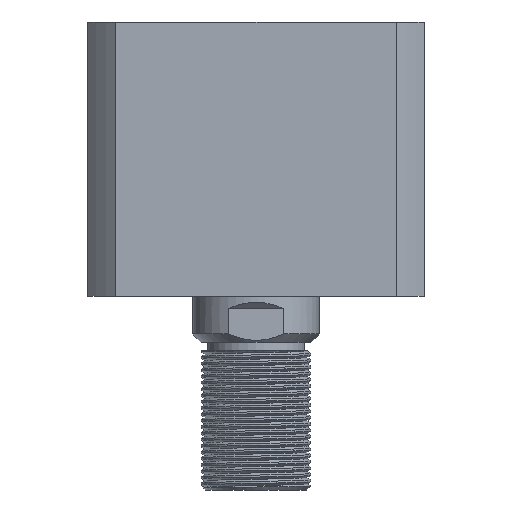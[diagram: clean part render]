
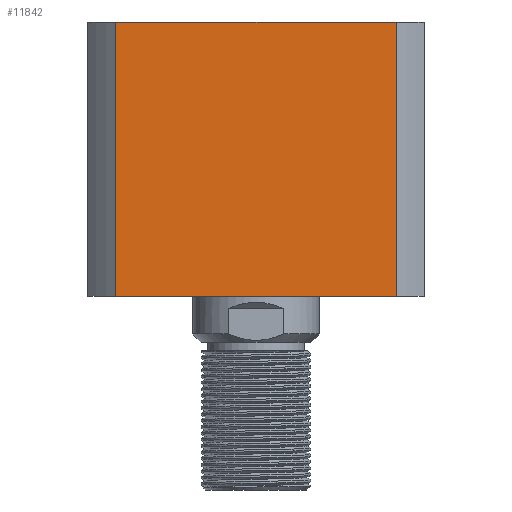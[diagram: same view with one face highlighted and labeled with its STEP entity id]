
A CAD part, left-side view. The second image highlights one B-rep face of the part: STEP entity #11842.
In plain terms, the highlighted planar face has unit normal (-1, 0, 0).
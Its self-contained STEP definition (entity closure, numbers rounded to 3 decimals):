
#645 = VECTOR ( 'NONE', #9045, 1000. ) ;
#862 = ORIENTED_EDGE ( 'NONE', *, *, #3514, .T. ) ;
#974 = CARTESIAN_POINT ( 'NONE',  ( -40., 33.226, 32.5 ) ) ;
#1391 = AXIS2_PLACEMENT_3D ( 'NONE', #974, #10622, #17326 ) ;
#1634 = CARTESIAN_POINT ( 'NONE',  ( -40., 33.226, -32.5 ) ) ;
#1740 = VECTOR ( 'NONE', #12940, 1000. ) ;
#1939 = CARTESIAN_POINT ( 'NONE',  ( -40., 33.226, 32.5 ) ) ;
#2533 = LINE ( 'NONE', #10851, #4883 ) ;
#2586 = LINE ( 'NONE', #4526, #1740 ) ;
#3111 = VERTEX_POINT ( 'NONE', #8209 ) ;
#3432 = LINE ( 'NONE', #1939, #645 ) ;
#3514 = EDGE_CURVE ( 'NONE', #13045, #12084, #3666, .T. ) ;
#3666 = LINE ( 'NONE', #3693, #6910 ) ;
#3693 = CARTESIAN_POINT ( 'NONE',  ( -40., 33.226, -32.5 ) ) ;
#3710 = EDGE_CURVE ( 'NONE', #16428, #12084, #2586, .T. ) ;
#4526 = CARTESIAN_POINT ( 'NONE',  ( -40., -33.226, 32.5 ) ) ;
#4883 = VECTOR ( 'NONE', #12108, 1000. ) ;
#6910 = VECTOR ( 'NONE', #11785, 1000. ) ;
#7675 = CARTESIAN_POINT ( 'NONE',  ( -40., -33.226, -32.5 ) ) ;
#7764 = PLANE ( 'NONE',  #1391 ) ;
#8083 = CARTESIAN_POINT ( 'NONE',  ( -40., -33.226, 32.5 ) ) ;
#8209 = CARTESIAN_POINT ( 'NONE',  ( -40., 33.226, 32.5 ) ) ;
#9045 = DIRECTION ( 'NONE',  ( 0., 0., -1. ) ) ;
#10622 = DIRECTION ( 'NONE',  ( 1., 0., 0. ) ) ;
#10851 = CARTESIAN_POINT ( 'NONE',  ( -40., 33.226, 32.5 ) ) ;
#11785 = DIRECTION ( 'NONE',  ( 0., -1., 0. ) ) ;
#11842 = ADVANCED_FACE ( 'NONE', ( #12789 ), #7764, .F. ) ;
#12084 = VERTEX_POINT ( 'NONE', #7675 ) ;
#12108 = DIRECTION ( 'NONE',  ( 0., -1., 0. ) ) ;
#12789 = FACE_OUTER_BOUND ( 'NONE', #15361, .T. ) ;
#12818 = ORIENTED_EDGE ( 'NONE', *, *, #3710, .F. ) ;
#12940 = DIRECTION ( 'NONE',  ( 0., 0., -1. ) ) ;
#13045 = VERTEX_POINT ( 'NONE', #1634 ) ;
#14484 = EDGE_CURVE ( 'NONE', #3111, #13045, #3432, .T. ) ;
#15249 = ORIENTED_EDGE ( 'NONE', *, *, #17707, .F. ) ;
#15361 = EDGE_LOOP ( 'NONE', ( #862, #12818, #15249, #16522 ) ) ;
#16428 = VERTEX_POINT ( 'NONE', #8083 ) ;
#16522 = ORIENTED_EDGE ( 'NONE', *, *, #14484, .T. ) ;
#17326 = DIRECTION ( 'NONE',  ( 0., 1., 0. ) ) ;
#17707 = EDGE_CURVE ( 'NONE', #3111, #16428, #2533, .T. ) ;
